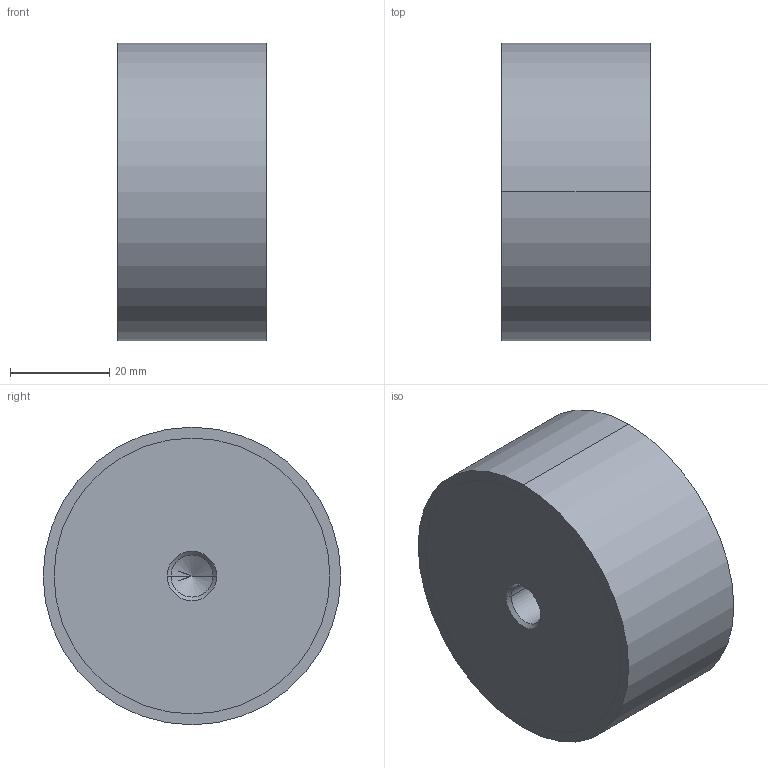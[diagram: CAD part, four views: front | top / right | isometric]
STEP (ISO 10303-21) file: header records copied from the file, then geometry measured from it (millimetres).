
FILE_DESCRIPTION (( 'STEP AP214' ), '1' );
FILE_NAME ('451-60-30-M10-EE-55.step', '2020-03-05T09:14:01', ( '' ), ( '' ), 'SwSTEP 2.0', 'SolidWorks 2019', '' );
FILE_SCHEMA (( 'AUTOMOTIVE_DESIGN' ));
Length unit declared in the file: millimetre
Products named in the file (1): 451-60-30-M10-EE-55
Bounding box: 30 x 60 x 60 mm (x, y, z)
Volume: 83528.6 mm3; surface area: 11843.9 mm2
Topology: 1 solids, 1 shells, 22 faces, 46 edges, 26 vertices
Faces by surface type: cylinder 10, cone 8, plane 4
Entity records: 684 total; most frequent: DIRECTION 112, CARTESIAN_POINT 91, ORIENTED_EDGE 84, AXIS2_PLACEMENT_3D 47, EDGE_CURVE 42, EDGE_LOOP 26, VERTEX_POINT 26, CIRCLE 24
